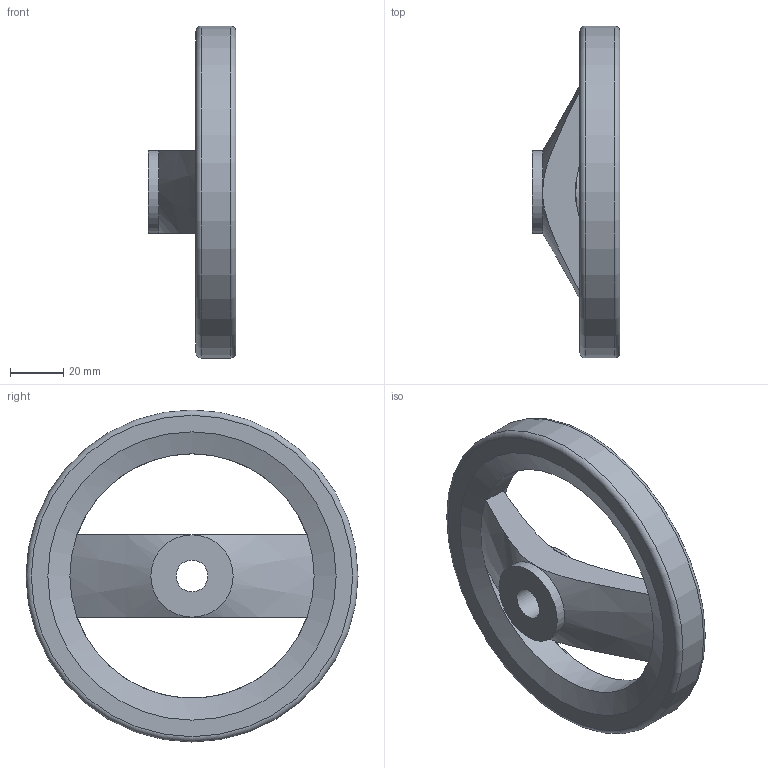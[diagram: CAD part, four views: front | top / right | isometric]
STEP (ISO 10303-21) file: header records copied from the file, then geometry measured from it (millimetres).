
FILE_DESCRIPTION( ( 'STEP AP203' ), '1' );
FILE_NAME( 'C:/Temp/Ganter_Step_05_03_2020/data/1_3/gn_324/gn_324_b/gn_324_b_a/Handwheel, matt black GN 324-125-B12-A.stp', '2020-03-05T10:32:53', ( 'License CC BY-ND 4.0' ), ( 'CADENAS' ), ' ', 'PARTsolutions', ' ' );
FILE_SCHEMA( ( 'CONFIG_CONTROL_DESIGN' ) );
Length unit declared in the file: millimetre
Products named in the file (1): _Handwheel, matt black GN 324-125-B12-A
Bounding box: 33 x 125 x 125 mm (x, y, z)
Volume: 113685.1 mm3; surface area: 28374.6 mm2
Topology: 1 solids, 1 shells, 19 faces, 43 edges, 24 vertices
Faces by surface type: plane 6, cone 6, cylinder 5, torus 2
Full cylindrical faces by diameter (mm): 12 x1, 31 x2, 92 x1, 125 x1
Entity records: 652 total; most frequent: CARTESIAN_POINT 216, DIRECTION 86, ORIENTED_EDGE 66, AXIS2_PLACEMENT_3D 41, EDGE_CURVE 33, EDGE_LOOP 32, FACE_OUTER_BOUND 26, VERTEX_POINT 23
